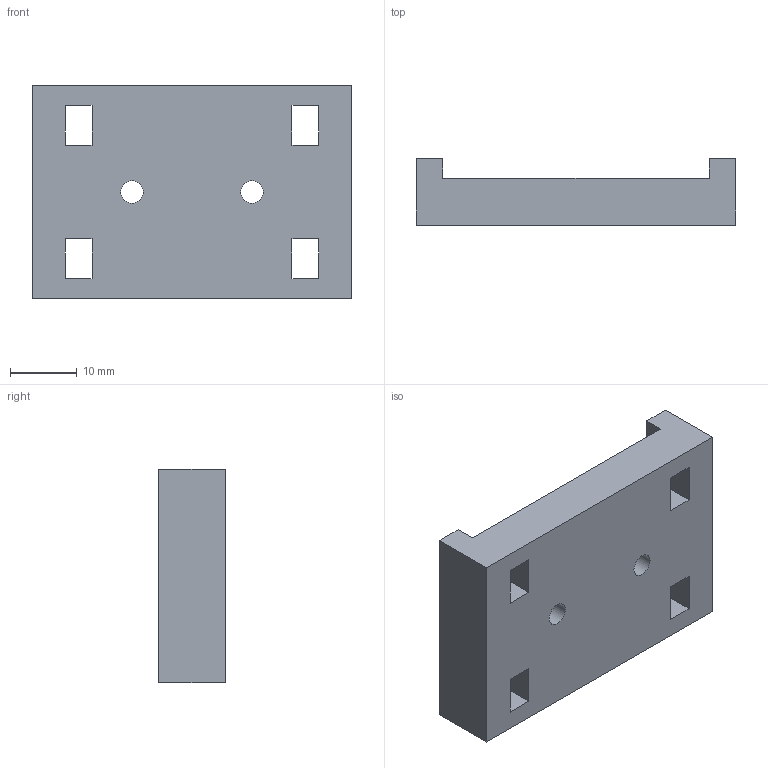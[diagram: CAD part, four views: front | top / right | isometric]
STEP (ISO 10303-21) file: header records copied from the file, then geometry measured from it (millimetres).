
FILE_DESCRIPTION(('Open CASCADE Model'),'2;1');
FILE_NAME('Open CASCADE Shape Model','2026-11-08T04:10:21',('Author'),( 'Open CASCADE'),'Open CASCADE STEP processor 7.8','Open CASCADE 7.8' ,'Unknown');
FILE_SCHEMA(('AUTOMOTIVE_DESIGN { 1 0 10303 214 1 1 1 1 }'));
Length unit declared in the file: millimetre
Products named in the file (1): Open CASCADE STEP translator 7.8 1
Bounding box: 48 x 10 x 32 mm (x, y, z)
Volume: 10594.5 mm3; surface area: 5163.8 mm2
Topology: 1 solids, 1 shells, 42 faces, 114 edges, 76 vertices
Faces by surface type: plane 40, cylinder 2
Full cylindrical faces by diameter (mm): 3.4 x2
Entity records: 2736 total; most frequent: CARTESIAN_POINT 561, DIRECTION 342, LINE 246, VECTOR 246, ORIENTED_EDGE 228, PCURVE 228, DEFINITIONAL_REPRESENTATION 228, EDGE_CURVE 114
